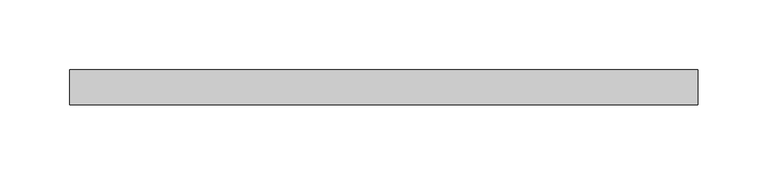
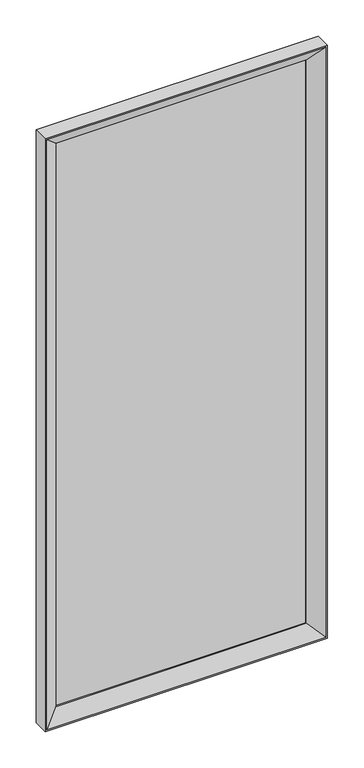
"""IFC4 building model written with IfcOpenShell, lengths in millimetres: proxy geometry, Mirror_Metlam_Framed : 450w x 25d x 1000h (ML771_5)."""

from ifc_helpers import new_model, si_unit, frame, origin, place, context, project, spatial, polyline, outline, extrude, faceted_brep, source, transform, mapped, element, save


def specialty_equipment_0e67bdee(model_context):
    return source(origin(), model_context, "Body", "SolidModel", [
        extrude(outline(polyline([(223.0, -2.0), (223.0, -8.0), (-223.0, -8.0), (-223.0, -2.0), (223.0, -2.0)])), frame((0.0, 0.0, 902.0), z_axis=(0.0, 0.0, 1.0), x_axis=(1.0, 0.0, 0.0)), (0.0, 0.0, 1.0), 996.0),
        faceted_brep([(-225.0, -25.0, 1900.0), (-225.0, 0.0, 1900.0), (-225.0, 0.0, 900.0), (-225.0, -25.0, 900.0), (-200.0, 0.0, 1875.0), (-200.0, -2.0, 1875.0), (-200.0, -2.0, 925.0), (-200.0, 0.0, 925.0), (225.0, 0.0, 900.0), (225.0, -25.0, 900.0), (200.0, -2.0, 925.0), (200.0, 0.0, 925.0), (225.0, 0.0, 1900.0), (225.0, -25.0, 1900.0), (200.0, -2.0, 1875.0), (200.0, 0.0, 1875.0), (-222.4054586, -25.0, 1897.4054586), (222.4054586, -25.0, 1897.4054586), (222.4054586, -25.0, 902.5945414), (-222.4054586, -25.0, 902.5945414), (-223.0, -2.0, 1898.0), (-223.0, -23.0, 1898.0), (-223.0, -23.0, 902.0), (-223.0, -2.0, 902.0), (-200.0, -8.0, 1875.0), (-200.0, -8.0, 925.0), (-200.0, -10.3877444, 1875.0), (-200.0, -10.3877444, 925.0), (223.0, -23.0, 902.0), (223.0, -2.0, 902.0), (200.0, -8.0, 925.0), (200.0, -10.3877444, 925.0), (223.0, -23.0, 1898.0), (223.0, -2.0, 1898.0), (200.0, -8.0, 1875.0), (200.0, -10.3877444, 1875.0)], [[[0, 1, 2, 3]], [[4, 5, 6, 7]], [[3, 2, 8, 9]], [[7, 6, 10, 11]], [[9, 8, 12, 13]], [[11, 10, 14, 15]], [[13, 12, 1, 0]], [[1, 12, 8, 2], [7, 11, 15, 4]], [[15, 14, 5, 4]], [[3, 9, 13, 0], [16, 17, 18, 19]], [[20, 21, 22, 23]], [[21, 24, 25, 22]], [[24, 26, 27, 25]], [[26, 16, 19, 27]], [[23, 22, 28, 29]], [[22, 25, 30, 28]], [[25, 27, 31, 30]], [[27, 19, 18, 31]], [[29, 28, 32, 33]], [[28, 30, 34, 32]], [[30, 31, 35, 34]], [[31, 18, 17, 35]], [[23, 29, 33, 20], [5, 14, 10, 6]], [[33, 32, 21, 20]], [[32, 34, 24, 21]], [[34, 35, 26, 24]], [[35, 17, 16, 26]]]),
    ])


if __name__ == "__main__":
    model = new_model("IFC4")
    model_context = context("Model", 3, world=origin())
    ifc_project = project(units=[si_unit("LENGTHUNIT", "METRE", prefix="MILLI")], contexts=[model_context])
    site = spatial("IfcSite", under=ifc_project)
    building = spatial("IfcBuilding", under=site)
    placement = place(None, origin())
    specialty_equipment_shape = specialty_equipment_0e67bdee(model_context)
    element("IfcBuildingElementProxy", 1, Name="Mirror_Metlam_Framed : 450w x 25d x 1000h (ML771_5)", ObjectType="Mirror_Metlam_Framed : 450w x 25d x 1000h (ML771_5)", at=placement, inside=building, context=model_context, shape_type="MappedRepresentation", body=[
        mapped(specialty_equipment_shape, transform((0.0, 0.0, 0.0), x_axis=(1.0, 0.0, 0.0), y_axis=(0.0, 1.0, 0.0), z_axis=(0.0, 0.0, 1.0))),
    ])
    save(model, "model.ifc")
